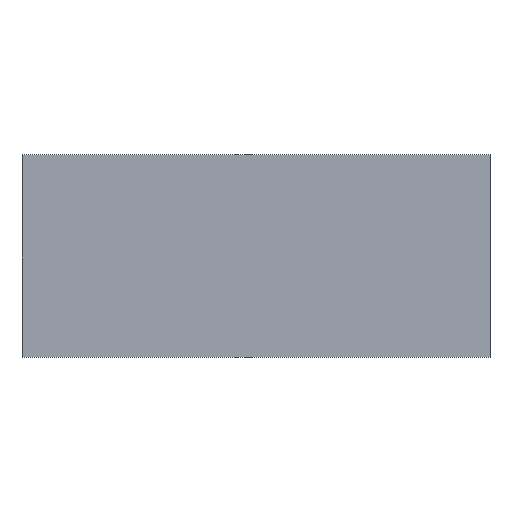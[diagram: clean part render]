
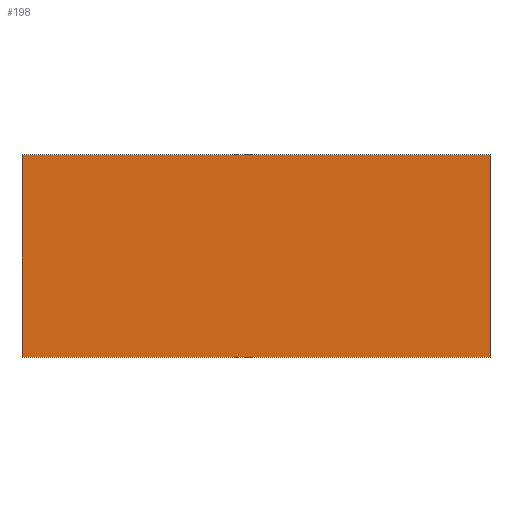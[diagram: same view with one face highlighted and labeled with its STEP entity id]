
A CAD part, top view. The second image highlights one B-rep face of the part: STEP entity #198.
In plain terms, the highlighted planar face has unit normal (0, 0, 1).
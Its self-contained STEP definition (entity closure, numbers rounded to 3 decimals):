
#6 = EDGE_CURVE ( 'NONE', #43, #40, #196, .T. ) ;
#12 = EDGE_CURVE ( 'NONE', #40, #38, #153, .T. ) ;
#13 = EDGE_CURVE ( 'NONE', #38, #39, #135, .T. ) ;
#14 = AXIS2_PLACEMENT_3D ( 'NONE', #69, #53, #90 ) ;
#22 = EDGE_CURVE ( 'NONE', #39, #43, #148, .T. ) ;
#38 = VERTEX_POINT ( 'NONE', #62 ) ;
#39 = VERTEX_POINT ( 'NONE', #80 ) ;
#40 = VERTEX_POINT ( 'NONE', #59 ) ;
#43 = VERTEX_POINT ( 'NONE', #72 ) ;
#53 = DIRECTION ( 'NONE',  ( 0., 0., -1. ) ) ;
#55 = DIRECTION ( 'NONE',  ( 1., 0., 0. ) ) ;
#56 = CARTESIAN_POINT ( 'NONE',  ( 554., 0., 6. ) ) ;
#59 = CARTESIAN_POINT ( 'NONE',  ( -554., 479., 6. ) ) ;
#60 = DIRECTION ( 'NONE',  ( -1., 0., 0. ) ) ;
#62 = CARTESIAN_POINT ( 'NONE',  ( -554., 0., 6. ) ) ;
#65 = DIRECTION ( 'NONE',  ( 0., 1., 0. ) ) ;
#69 = CARTESIAN_POINT ( 'NONE',  ( -554., 479., 6. ) ) ;
#70 = CARTESIAN_POINT ( 'NONE',  ( -554., 479., 6. ) ) ;
#72 = CARTESIAN_POINT ( 'NONE',  ( 554., 479., 6. ) ) ;
#75 = PLANE ( 'NONE',  #14 ) ;
#78 = CARTESIAN_POINT ( 'NONE',  ( -554., 0., 6. ) ) ;
#80 = CARTESIAN_POINT ( 'NONE',  ( 554., 0., 6. ) ) ;
#81 = CARTESIAN_POINT ( 'NONE',  ( -554., 0., 6. ) ) ;
#90 = DIRECTION ( 'NONE',  ( 0., 1., 0. ) ) ;
#123 = DIRECTION ( 'NONE',  ( 0., -1., 0. ) ) ;
#127 = ORIENTED_EDGE ( 'NONE', *, *, #22, .T. ) ;
#132 = EDGE_LOOP ( 'NONE', ( #141, #140, #127, #191 ) ) ;
#134 = VECTOR ( 'NONE', #55, 1000. ) ;
#135 = LINE ( 'NONE', #81, #134 ) ;
#138 = VECTOR ( 'NONE', #60, 1000. ) ;
#140 = ORIENTED_EDGE ( 'NONE', *, *, #13, .T. ) ;
#141 = ORIENTED_EDGE ( 'NONE', *, *, #12, .T. ) ;
#148 = LINE ( 'NONE', #56, #149 ) ;
#149 = VECTOR ( 'NONE', #65, 1000. ) ;
#153 = LINE ( 'NONE', #78, #187 ) ;
#182 = FACE_OUTER_BOUND ( 'NONE', #132, .T. ) ;
#187 = VECTOR ( 'NONE', #123, 1000. ) ;
#191 = ORIENTED_EDGE ( 'NONE', *, *, #6, .T. ) ;
#196 = LINE ( 'NONE', #70, #138 ) ;
#198 = ADVANCED_FACE ( 'NONE', ( #182 ), #75, .F. ) ;
